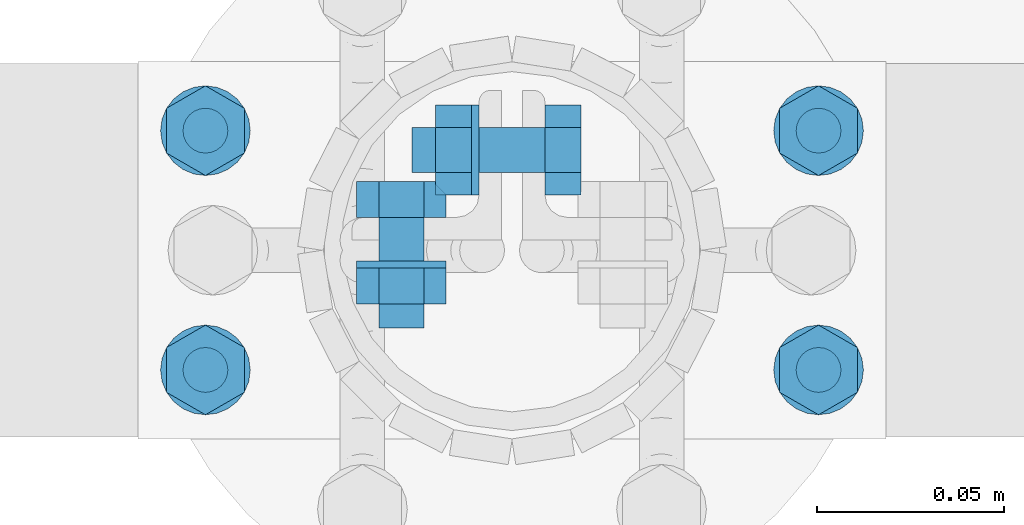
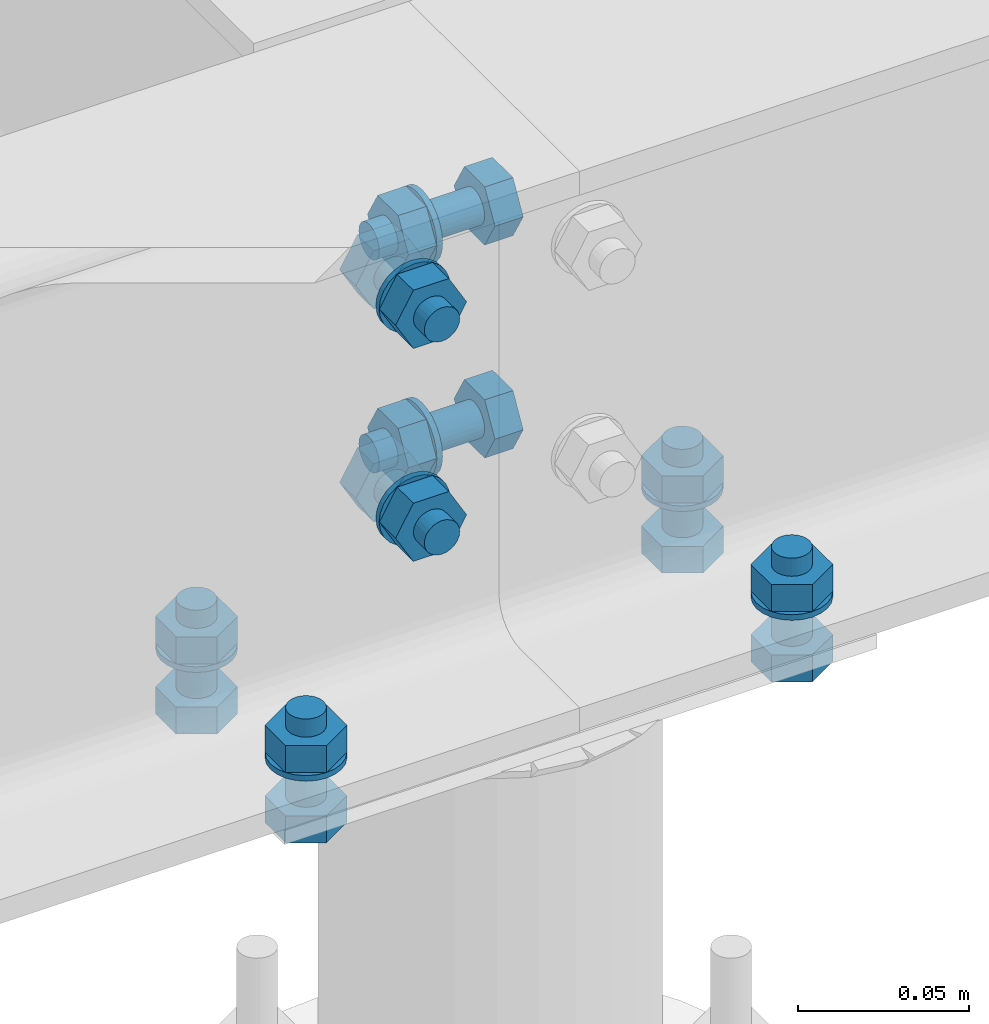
# One storey, part 42 of 84: 40 mechanical fasteners.
"""IFC4 building model written with IfcOpenShell, lengths in metres."""

from ifc_helpers import new_model, si_unit, frame, origin_with_axes, place, context, project, spatial, polyline, outline, extrude, type_object, element, save


model = new_model("IFC4")

# Units and contexts
model_context = context("Model", 3, precision=1e-05, world=origin_with_axes())
ifc_project = project(units=[si_unit("LENGTHUNIT", "METRE"), si_unit("AREAUNIT", "SQUARE_METRE"), si_unit("VOLUMEUNIT", "CUBIC_METRE"), si_unit("MASSUNIT", "GRAM", prefix="KILO"), si_unit("TIMEUNIT", "SECOND"), si_unit("PLANEANGLEUNIT", "RADIAN"), si_unit("SOLIDANGLEUNIT", "STERADIAN"), si_unit("THERMODYNAMICTEMPERATUREUNIT", "DEGREE_CELSIUS")], contexts=[model_context])

# Site, building, storey
placement_1 = place(None, origin_with_axes())
site = spatial("IfcSite", under=ifc_project, at=placement_1, Name="Italia", CompositionType="ELEMENT")
building = spatial("IfcBuilding", under=site, at=placement_1, Name="Tettoia", CompositionType="ELEMENT")
storey_placement = place(None, frame((0.0, 0.0, 4.199999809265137), z_axis=(0.0, 0.0, 1.0), x_axis=(1.0, 0.0, 0.0)))
storey = spatial("IfcBuildingStorey", under=building, at=storey_placement, Name="Storey 1", CompositionType="ELEMENT", Elevation=4.199999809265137)

# Mechanical fasteners
mechanical_fastener_type_1 = type_object("IfcMechanicalFastenerType", Name="Collegamento 0107_-007", PredefinedType="BOLT")
placement_2 = place(placement_1, origin_with_axes())
mechanical_fastener_1_placement = place(placement_2, origin_with_axes())
element("IfcMechanicalFastener", 1, at=mechanical_fastener_1_placement, inside=storey, type_object=mechanical_fastener_type_1, Name="Collegamento 0107_-007", NominalDiameter=0.0119998, context=model_context, shape_type="SweptSolid", body=[
    extrude(outline(polyline([(0.0, 0.0), (0.0120001, 0.0), (0.0179996, -0.0103923), (0.0120001, -0.0207846), (0.0, -0.0207846), (-0.00599957, -0.0103923), (0.0, 0.0)])), frame((0.192392, 9.996, 4.195), z_axis=(1.552177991e-06, 0.0, -1.0), x_axis=(0.0, 1.0, 0.0)), (0.0, 0.0, 1.0), 0.00960016),
])
mechanical_fastener_type_2 = type_object("IfcMechanicalFastenerType", Name="Collegamento 0107_-007", PredefinedType="BOLT")
mechanical_fastener_2_placement = place(placement_2, origin_with_axes())
element("IfcMechanicalFastener", 2, at=mechanical_fastener_2_placement, inside=storey, type_object=mechanical_fastener_type_2, Name="Collegamento 0107_-007", NominalDiameter=0.012, context=model_context, shape_type="SweptSolid", body=[
    extrude(outline(polyline([(0.0, 0.0), (-0.000204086, -0.00155291), (-0.000802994, -0.00300001), (-0.00175667, -0.00424264), (-0.00299931, -0.00519615), (-0.00444698, -0.00579555), (-0.00599957, -0.006), (-0.00755215, -0.00579555), (-0.00899982, -0.00519615), (-0.0102425, -0.00424264), (-0.0111961, -0.00300001), (-0.011795, -0.00155291), (-0.0119991, 0.0), (-0.011795, 0.00155291), (-0.0111961, 0.00300001), (-0.0102425, 0.00424264), (-0.00899982, 0.00519615), (-0.00755215, 0.00579555), (-0.00599957, 0.006), (-0.00444698, 0.00579555), (-0.00299931, 0.00519615), (-0.00175667, 0.00424264), (-0.000802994, 0.00299999), (-0.000204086, 0.00155291), (0.0, 0.0)])), frame((0.182, 10.008, 4.2265), z_axis=(2.838328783e-06, 0.0, -1.0), x_axis=(0.0, 1.0, 0.0)), (0.0, 0.0, 1.0), 0.0314999),
])
mechanical_fastener_type_3 = type_object("IfcMechanicalFastenerType", Name="Collegamento 0107_-007", PredefinedType="BOLT")
mechanical_fastener_3_placement = place(placement_2, origin_with_axes())
element("IfcMechanicalFastener", 3, at=mechanical_fastener_3_placement, inside=storey, type_object=mechanical_fastener_type_3, Name="Collegamento 0107_-007", NominalDiameter=0.0119998, context=model_context, shape_type="SweptSolid", body=[
    extrude(outline(polyline([(0.0, 0.0), (0.0120001, 0.0), (0.0179996, -0.0103923), (0.0120001, -0.0207846), (0.0, -0.0207846), (-0.00599957, -0.0103923), (0.0, 0.0)])), frame((0.192392, 9.996, 4.2201), z_axis=(1.552255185e-06, 0.0, -1.0), x_axis=(0.0, 1.0, 0.0)), (0.0, 0.0, 1.0), 0.00959969),
])
mechanical_fastener_type_4 = type_object("IfcMechanicalFastenerType", Name="Collegamento 0107_-007", PredefinedType="BOLT")
mechanical_fastener_4_placement = place(placement_2, origin_with_axes())
element("IfcMechanicalFastener", 4, at=mechanical_fastener_4_placement, inside=storey, type_object=mechanical_fastener_type_4, Name="Collegamento 0107_-007", NominalDiameter=0.024, context=model_context, shape_type="SweptSolid", body=[
    extrude(outline(polyline([(0.0, 0.0), (-0.000409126, -0.00310583), (-0.00160789, -0.006), (-0.00351524, -0.00848529), (-0.00600052, -0.0103923), (-0.00889397, -0.0115911), (-0.0120001, -0.012), (-0.0151062, -0.0115911), (-0.0179996, -0.0103923), (-0.0204849, -0.00848529), (-0.0223923, -0.006), (-0.023591, -0.00310583), (-0.0240002, 0.0), (-0.023591, 0.00310583), (-0.0223923, 0.006), (-0.0204849, 0.00848529), (-0.0179996, 0.0103923), (-0.0151062, 0.0115911), (-0.0120001, 0.012), (-0.00889397, 0.0115911), (-0.00600052, 0.0103923), (-0.00351524, 0.00848527), (-0.00160789, 0.006), (-0.000409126, 0.00310582), (0.0, 0.0)])), frame((0.182, 10.014, 4.2105), z_axis=(0.0, 0.0, -1.0), x_axis=(0.0, 1.0, 0.0)), (0.0, 0.0, 1.0), 0.00199986),
])
mechanical_fastener_type_5 = type_object("IfcMechanicalFastenerType", Name="Collegamento 0107_-007", PredefinedType="BOLT")
mechanical_fastener_5_placement = place(placement_2, origin_with_axes())
element("IfcMechanicalFastener", 5, at=mechanical_fastener_5_placement, inside=storey, type_object=mechanical_fastener_type_5, Name="Collegamento 0107_-007", NominalDiameter=0.0119998, context=model_context, shape_type="SweptSolid", body=[
    extrude(outline(polyline([(0.0, 0.0), (0.0120001, 0.0), (0.0179996, -0.0103923), (0.0120001, -0.0207846), (0.0, -0.0207846), (-0.00599957, -0.0103923), (0.0, 0.0)])), frame((0.192392, 9.932, 4.195), z_axis=(1.552177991e-06, 0.0, -1.0), x_axis=(0.0, 1.0, 0.0)), (0.0, 0.0, 1.0), 0.00960016),
])
mechanical_fastener_type_6 = type_object("IfcMechanicalFastenerType", Name="Collegamento 0107_-007", PredefinedType="BOLT")
mechanical_fastener_6_placement = place(placement_2, origin_with_axes())
element("IfcMechanicalFastener", 6, at=mechanical_fastener_6_placement, inside=storey, type_object=mechanical_fastener_type_6, Name="Collegamento 0107_-007", NominalDiameter=0.012, context=model_context, shape_type="SweptSolid", body=[
    extrude(outline(polyline([(0.0, 0.0), (-0.000204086, -0.00155291), (-0.000802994, -0.00300001), (-0.00175667, -0.00424264), (-0.00299931, -0.00519615), (-0.00444698, -0.00579555), (-0.00599957, -0.006), (-0.00755215, -0.00579555), (-0.00899982, -0.00519615), (-0.0102425, -0.00424264), (-0.0111961, -0.00300001), (-0.011795, -0.00155291), (-0.0119991, 0.0), (-0.011795, 0.00155291), (-0.0111961, 0.00300001), (-0.0102425, 0.00424264), (-0.00899982, 0.00519615), (-0.00755215, 0.00579555), (-0.00599957, 0.006), (-0.00444698, 0.00579555), (-0.00299931, 0.00519615), (-0.00175667, 0.00424264), (-0.000802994, 0.00299999), (-0.000204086, 0.00155291), (0.0, 0.0)])), frame((0.182, 9.944, 4.2265), z_axis=(2.838328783e-06, 0.0, -1.0), x_axis=(0.0, 1.0, 0.0)), (0.0, 0.0, 1.0), 0.0314999),
])
mechanical_fastener_type_7 = type_object("IfcMechanicalFastenerType", Name="Collegamento 0107_-007", PredefinedType="BOLT")
mechanical_fastener_7_placement = place(placement_2, origin_with_axes())
element("IfcMechanicalFastener", 7, at=mechanical_fastener_7_placement, inside=storey, type_object=mechanical_fastener_type_7, Name="Collegamento 0107_-007", NominalDiameter=0.0119998, context=model_context, shape_type="SweptSolid", body=[
    extrude(outline(polyline([(0.0, 0.0), (0.0120001, 0.0), (0.0179996, -0.0103923), (0.0120001, -0.0207846), (0.0, -0.0207846), (-0.00599957, -0.0103923), (0.0, 0.0)])), frame((0.192392, 9.932, 4.2201), z_axis=(1.552255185e-06, 0.0, -1.0), x_axis=(0.0, 1.0, 0.0)), (0.0, 0.0, 1.0), 0.00959969),
])
mechanical_fastener_type_8 = type_object("IfcMechanicalFastenerType", Name="Collegamento 0107_-007", PredefinedType="BOLT")
mechanical_fastener_8_placement = place(placement_2, origin_with_axes())
element("IfcMechanicalFastener", 8, at=mechanical_fastener_8_placement, inside=storey, type_object=mechanical_fastener_type_8, Name="Collegamento 0107_-007", NominalDiameter=0.024, context=model_context, shape_type="SweptSolid", body=[
    extrude(outline(polyline([(0.0, 0.0), (-0.000409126, -0.00310583), (-0.00160789, -0.006), (-0.00351524, -0.00848529), (-0.00600052, -0.0103923), (-0.00889397, -0.0115911), (-0.0120001, -0.012), (-0.0151062, -0.0115911), (-0.0179996, -0.0103923), (-0.0204849, -0.00848529), (-0.0223923, -0.006), (-0.023591, -0.00310583), (-0.0240002, 0.0), (-0.023591, 0.00310583), (-0.0223923, 0.006), (-0.0204849, 0.00848529), (-0.0179996, 0.0103923), (-0.0151062, 0.0115911), (-0.0120001, 0.012), (-0.00889397, 0.0115911), (-0.00600052, 0.0103923), (-0.00351524, 0.00848527), (-0.00160789, 0.006), (-0.000409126, 0.00310582), (0.0, 0.0)])), frame((0.182, 9.95, 4.2105), z_axis=(0.0, 0.0, -1.0), x_axis=(0.0, 1.0, 0.0)), (0.0, 0.0, 1.0), 0.00199986),
])
mechanical_fastener_type_9 = type_object("IfcMechanicalFastenerType", Name="Collegamento 0107_-007", PredefinedType="BOLT")
mechanical_fastener_9_placement = place(placement_2, origin_with_axes())
element("IfcMechanicalFastener", 9, at=mechanical_fastener_9_placement, inside=storey, type_object=mechanical_fastener_type_9, Name="Collegamento 0107_-007", NominalDiameter=0.0119998, context=model_context, shape_type="SweptSolid", body=[
    extrude(outline(polyline([(0.0, 0.0), (0.0120001, 0.0), (0.0179996, -0.0103923), (0.0120001, -0.0207846), (0.0, -0.0207846), (-0.00599957, -0.0103923), (0.0, 0.0)])), frame((0.0283923, 9.996, 4.195), z_axis=(2.328267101e-06, 0.0, -1.0), x_axis=(0.0, 1.0, 0.0)), (0.0, 0.0, 1.0), 0.00960016),
])
mechanical_fastener_type_10 = type_object("IfcMechanicalFastenerType", Name="Collegamento 0107_-007", PredefinedType="BOLT")
mechanical_fastener_10_placement = place(placement_2, origin_with_axes())
element("IfcMechanicalFastener", 10, at=mechanical_fastener_10_placement, inside=storey, type_object=mechanical_fastener_type_10, Name="Collegamento 0107_-007", NominalDiameter=0.012, context=model_context, shape_type="SweptSolid", body=[
    extrude(outline(polyline([(0.0, 0.0), (-0.000204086, -0.00155291), (-0.000802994, -0.003), (-0.00175667, -0.00424264), (-0.00299931, -0.00519615), (-0.00444698, -0.00579556), (-0.00599957, -0.006), (-0.00755215, -0.00579556), (-0.00899982, -0.00519615), (-0.0102425, -0.00424264), (-0.0111961, -0.003), (-0.011795, -0.00155291), (-0.0119991, 0.0), (-0.011795, 0.00155292), (-0.0111961, 0.003), (-0.0102425, 0.00424264), (-0.00899982, 0.00519615), (-0.00755215, 0.00579556), (-0.00599957, 0.006), (-0.00444698, 0.00579556), (-0.00299931, 0.00519615), (-0.00175667, 0.00424264), (-0.000802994, 0.003), (-0.000204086, 0.00155291), (0.0, 0.0)])), frame((0.0179999, 10.008, 4.2265), z_axis=(2.365273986e-06, 0.0, -1.0), x_axis=(0.0, 1.0, 0.0)), (0.0, 0.0, 1.0), 0.0314999),
])
mechanical_fastener_type_11 = type_object("IfcMechanicalFastenerType", Name="Collegamento 0107_-007", PredefinedType="BOLT")
mechanical_fastener_11_placement = place(placement_2, origin_with_axes())
element("IfcMechanicalFastener", 11, at=mechanical_fastener_11_placement, inside=storey, type_object=mechanical_fastener_type_11, Name="Collegamento 0107_-007", NominalDiameter=0.0119998, context=model_context, shape_type="SweptSolid", body=[
    extrude(outline(polyline([(0.0, 0.0), (0.0120001, 0.0), (0.0179996, -0.0103923), (0.0120001, -0.0207846), (0.0, -0.0207846), (-0.00599957, -0.0103923), (0.0, 0.0)])), frame((0.0283922, 9.996, 4.2201), z_axis=(2.328382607e-06, 0.0, -1.0), x_axis=(0.0, 1.0, 0.0)), (0.0, 0.0, 1.0), 0.00959969),
])
mechanical_fastener_type_12 = type_object("IfcMechanicalFastenerType", Name="Collegamento 0107_-007", PredefinedType="BOLT")
mechanical_fastener_12_placement = place(placement_2, origin_with_axes())
element("IfcMechanicalFastener", 12, at=mechanical_fastener_12_placement, inside=storey, type_object=mechanical_fastener_type_12, Name="Collegamento 0107_-007", NominalDiameter=0.024, context=model_context, shape_type="SweptSolid", body=[
    extrude(outline(polyline([(0.0, 0.0), (-0.000409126, -0.00310583), (-0.00160789, -0.006), (-0.00351524, -0.00848528), (-0.00600052, -0.0103923), (-0.00889397, -0.0115911), (-0.0120001, -0.012), (-0.0151062, -0.0115911), (-0.0179996, -0.0103923), (-0.0204849, -0.00848528), (-0.0223923, -0.006), (-0.023591, -0.00310583), (-0.0240002, 0.0), (-0.023591, 0.00310583), (-0.0223923, 0.006), (-0.0204849, 0.00848528), (-0.0179996, 0.0103923), (-0.0151062, 0.0115911), (-0.0120001, 0.012), (-0.00889397, 0.0115911), (-0.00600052, 0.0103923), (-0.00351524, 0.00848528), (-0.00160789, 0.006), (-0.000409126, 0.00310583), (0.0, 0.0)])), frame((0.018, 10.014, 4.2105), z_axis=(0.0, 0.0, -1.0), x_axis=(0.0, 1.0, 0.0)), (0.0, 0.0, 1.0), 0.00200033),
])
mechanical_fastener_type_13 = type_object("IfcMechanicalFastenerType", Name="Collegamento 0107_-007", PredefinedType="BOLT")
mechanical_fastener_13_placement = place(placement_2, origin_with_axes())
element("IfcMechanicalFastener", 13, at=mechanical_fastener_13_placement, inside=storey, type_object=mechanical_fastener_type_13, Name="Collegamento 0107_-007", NominalDiameter=0.0119998, context=model_context, shape_type="SweptSolid", body=[
    extrude(outline(polyline([(0.0, 0.0), (0.0120001, 0.0), (0.0179996, -0.0103923), (0.0120001, -0.0207846), (0.0, -0.0207846), (-0.00599957, -0.0103923), (0.0, 0.0)])), frame((0.0283923, 9.932, 4.195), z_axis=(2.328267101e-06, 0.0, -1.0), x_axis=(0.0, 1.0, 0.0)), (0.0, 0.0, 1.0), 0.00960016),
])
mechanical_fastener_type_14 = type_object("IfcMechanicalFastenerType", Name="Collegamento 0107_-007", PredefinedType="BOLT")
mechanical_fastener_14_placement = place(placement_2, origin_with_axes())
element("IfcMechanicalFastener", 14, at=mechanical_fastener_14_placement, inside=storey, type_object=mechanical_fastener_type_14, Name="Collegamento 0107_-007", NominalDiameter=0.012, context=model_context, shape_type="SweptSolid", body=[
    extrude(outline(polyline([(0.0, 0.0), (-0.000204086, -0.00155291), (-0.000802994, -0.003), (-0.00175667, -0.00424264), (-0.00299931, -0.00519615), (-0.00444698, -0.00579556), (-0.00599957, -0.006), (-0.00755215, -0.00579556), (-0.00899982, -0.00519615), (-0.0102425, -0.00424264), (-0.0111961, -0.003), (-0.011795, -0.00155291), (-0.0119991, 0.0), (-0.011795, 0.00155292), (-0.0111961, 0.003), (-0.0102425, 0.00424264), (-0.00899982, 0.00519615), (-0.00755215, 0.00579556), (-0.00599957, 0.006), (-0.00444698, 0.00579556), (-0.00299931, 0.00519615), (-0.00175667, 0.00424264), (-0.000802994, 0.003), (-0.000204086, 0.00155291), (0.0, 0.0)])), frame((0.0179999, 9.944, 4.2265), z_axis=(2.365273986e-06, 0.0, -1.0), x_axis=(0.0, 1.0, 0.0)), (0.0, 0.0, 1.0), 0.0314999),
])
mechanical_fastener_type_15 = type_object("IfcMechanicalFastenerType", Name="Collegamento 0107_-007", PredefinedType="BOLT")
mechanical_fastener_15_placement = place(placement_2, origin_with_axes())
element("IfcMechanicalFastener", 15, at=mechanical_fastener_15_placement, inside=storey, type_object=mechanical_fastener_type_15, Name="Collegamento 0107_-007", NominalDiameter=0.0119998, context=model_context, shape_type="SweptSolid", body=[
    extrude(outline(polyline([(0.0, 0.0), (0.0120001, 0.0), (0.0179996, -0.0103923), (0.0120001, -0.0207846), (0.0, -0.0207846), (-0.00599957, -0.0103923), (0.0, 0.0)])), frame((0.0283922, 9.932, 4.2201), z_axis=(2.328382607e-06, 0.0, -1.0), x_axis=(0.0, 1.0, 0.0)), (0.0, 0.0, 1.0), 0.00959969),
])
mechanical_fastener_type_16 = type_object("IfcMechanicalFastenerType", Name="Collegamento 0107_-007", PredefinedType="BOLT")
mechanical_fastener_16_placement = place(placement_2, origin_with_axes())
element("IfcMechanicalFastener", 16, at=mechanical_fastener_16_placement, inside=storey, type_object=mechanical_fastener_type_16, Name="Collegamento 0107_-007", NominalDiameter=0.024, context=model_context, shape_type="SweptSolid", body=[
    extrude(outline(polyline([(0.0, 0.0), (-0.000409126, -0.00310583), (-0.00160789, -0.006), (-0.00351524, -0.00848528), (-0.00600052, -0.0103923), (-0.00889397, -0.0115911), (-0.0120001, -0.012), (-0.0151062, -0.0115911), (-0.0179996, -0.0103923), (-0.0204849, -0.00848528), (-0.0223923, -0.006), (-0.023591, -0.00310583), (-0.0240002, 0.0), (-0.023591, 0.00310583), (-0.0223923, 0.006), (-0.0204849, 0.00848528), (-0.0179996, 0.0103923), (-0.0151062, 0.0115911), (-0.0120001, 0.012), (-0.00889397, 0.0115911), (-0.00600052, 0.0103923), (-0.00351524, 0.00848528), (-0.00160789, 0.006), (-0.000409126, 0.00310583), (0.0, 0.0)])), frame((0.018, 9.95, 4.2105), z_axis=(0.0, 0.0, -1.0), x_axis=(0.0, 1.0, 0.0)), (0.0, 0.0, 1.0), 0.00200033),
])
mechanical_fastener_type_17 = type_object("IfcMechanicalFastenerType", Name="Collegamento 0107_0111", PredefinedType="BOLT")
mechanical_fastener_17_placement = place(placement_2, origin_with_axes())
element("IfcMechanicalFastener", 17, at=mechanical_fastener_17_placement, inside=storey, type_object=mechanical_fastener_type_17, Name="Collegamento 0107_0111", NominalDiameter=0.0119997, context=model_context, shape_type="SweptSolid", body=[
    extrude(outline(polyline([(0.0, 0.0), (-0.0120001, 0.0), (-0.0179996, 0.0103922), (-0.0120001, 0.0207844), (0.0, 0.0207844), (0.00600052, 0.0103922), (0.0, 0.0)])), frame((0.1088, 10.0028, 4.25161), z_axis=(1.0, 0.0, 0.0), x_axis=(0.0, 1.0, 0.0)), (0.0, 0.0, 1.0), 0.0096),
])
mechanical_fastener_type_18 = type_object("IfcMechanicalFastenerType", Name="Collegamento 0107_0111", PredefinedType="BOLT")
mechanical_fastener_18_placement = place(placement_2, origin_with_axes())
element("IfcMechanicalFastener", 18, at=mechanical_fastener_18_placement, inside=storey, type_object=mechanical_fastener_type_18, Name="Collegamento 0107_0111", NominalDiameter=0.012, context=model_context, shape_type="SweptSolid", body=[
    extrude(outline(polyline([(0.0, 0.0), (-0.000204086, -0.00155306), (-0.000802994, -0.00299978), (-0.00175667, -0.00424242), (-0.00299931, -0.00519609), (-0.00444698, -0.00579548), (-0.00599957, -0.00600004), (-0.00755215, -0.00579548), (-0.00899982, -0.00519609), (-0.0102425, -0.00424242), (-0.0111961, -0.00299978), (-0.011795, -0.00155306), (-0.0119991, 0.0), (-0.011795, 0.00155306), (-0.0111961, 0.00299978), (-0.0102425, 0.00424242), (-0.00899982, 0.00519609), (-0.00755215, 0.00579548), (-0.00599957, 0.00600004), (-0.00444698, 0.00579548), (-0.00299931, 0.00519609), (-0.00175667, 0.00424242), (-0.000802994, 0.00299978), (-0.000204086, 0.00155306), (0.0, 0.0)])), frame((0.0732, 10.0028, 4.262), z_axis=(1.0, 0.0, 0.0), x_axis=(0.0, 1.0, 0.0)), (0.0, 0.0, 1.0), 0.0356),
])
mechanical_fastener_type_19 = type_object("IfcMechanicalFastenerType", Name="Collegamento 0107_0111", PredefinedType="BOLT")
mechanical_fastener_19_placement = place(placement_2, origin_with_axes())
element("IfcMechanicalFastener", 19, at=mechanical_fastener_19_placement, inside=storey, type_object=mechanical_fastener_type_19, Name="Collegamento 0107_0111", NominalDiameter=0.0119997, context=model_context, shape_type="SweptSolid", body=[
    extrude(outline(polyline([(0.0, 0.0), (-0.0120001, 0.0), (-0.0179996, 0.0103922), (-0.0120001, 0.0207844), (0.0, 0.0207844), (0.00600052, 0.0103922), (0.0, 0.0)])), frame((0.0796, 10.0028, 4.25161), z_axis=(1.0, 0.0, 0.0), x_axis=(0.0, 1.0, 0.0)), (0.0, 0.0, 1.0), 0.00960001),
])
mechanical_fastener_type_20 = type_object("IfcMechanicalFastenerType", Name="Collegamento 0107_0111", PredefinedType="BOLT")
mechanical_fastener_20_placement = place(placement_2, origin_with_axes())
element("IfcMechanicalFastener", 20, at=mechanical_fastener_20_placement, inside=storey, type_object=mechanical_fastener_type_20, Name="Collegamento 0107_0111", NominalDiameter=0.024, context=model_context, shape_type="SweptSolid", body=[
    extrude(outline(polyline([(0.0, 0.0), (-0.000409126, -0.00310564), (-0.00160789, -0.00600004), (-0.00351524, -0.00848532), (-0.00600052, -0.0103922), (-0.00889397, -0.011591), (-0.0120001, -0.0120001), (-0.0151062, -0.011591), (-0.0179996, -0.0103922), (-0.0204849, -0.00848532), (-0.0223923, -0.00600004), (-0.023591, -0.00310564), (-0.0240002, 0.0), (-0.023591, 0.00310564), (-0.0223923, 0.00600004), (-0.0204849, 0.00848532), (-0.0179996, 0.0103922), (-0.0151062, 0.011591), (-0.0120001, 0.0120001), (-0.00889397, 0.011591), (-0.00600052, 0.0103922), (-0.00351524, 0.00848532), (-0.00160789, 0.00600004), (-0.000409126, 0.00310564), (0.0, 0.0)])), frame((0.0892, 10.0088, 4.262), z_axis=(1.0, 0.0, 0.0), x_axis=(0.0, 1.0, 0.0)), (0.0, 0.0, 1.0), 0.002),
])
mechanical_fastener_type_21 = type_object("IfcMechanicalFastenerType", Name="Collegamento 0107_0111", PredefinedType="BOLT")
mechanical_fastener_21_placement = place(placement_2, origin_with_axes())
element("IfcMechanicalFastener", 21, at=mechanical_fastener_21_placement, inside=storey, type_object=mechanical_fastener_type_21, Name="Collegamento 0107_0111", NominalDiameter=0.0119997, context=model_context, shape_type="SweptSolid", body=[
    extrude(outline(polyline([(0.0, 0.0), (-0.0120001, 0.0), (-0.0179996, 0.0103922), (-0.0120001, 0.0207844), (0.0, 0.0207844), (0.00600052, 0.0103922), (0.0, 0.0)])), frame((0.1088, 10.0028, 4.32761), z_axis=(1.0, 0.0, 0.0), x_axis=(0.0, 1.0, 0.0)), (0.0, 0.0, 1.0), 0.0096),
])
mechanical_fastener_type_22 = type_object("IfcMechanicalFastenerType", Name="Collegamento 0107_0111", PredefinedType="BOLT")
mechanical_fastener_22_placement = place(placement_2, origin_with_axes())
element("IfcMechanicalFastener", 22, at=mechanical_fastener_22_placement, inside=storey, type_object=mechanical_fastener_type_22, Name="Collegamento 0107_0111", NominalDiameter=0.012, context=model_context, shape_type="SweptSolid", body=[
    extrude(outline(polyline([(0.0, 0.0), (-0.000204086, -0.00155306), (-0.000802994, -0.00299978), (-0.00175667, -0.00424242), (-0.00299931, -0.00519609), (-0.00444698, -0.00579548), (-0.00599957, -0.00600004), (-0.00755215, -0.00579548), (-0.00899982, -0.00519609), (-0.0102425, -0.00424242), (-0.0111961, -0.00299978), (-0.011795, -0.00155306), (-0.0119991, 0.0), (-0.011795, 0.00155306), (-0.0111961, 0.00299978), (-0.0102425, 0.00424242), (-0.00899982, 0.00519609), (-0.00755215, 0.00579548), (-0.00599957, 0.00600004), (-0.00444698, 0.00579548), (-0.00299931, 0.00519609), (-0.00175667, 0.00424242), (-0.000802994, 0.00299978), (-0.000204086, 0.00155306), (0.0, 0.0)])), frame((0.0732, 10.0028, 4.338), z_axis=(1.0, 0.0, 0.0), x_axis=(0.0, 1.0, 0.0)), (0.0, 0.0, 1.0), 0.0356),
])
mechanical_fastener_type_23 = type_object("IfcMechanicalFastenerType", Name="Collegamento 0107_0111", PredefinedType="BOLT")
mechanical_fastener_23_placement = place(placement_2, origin_with_axes())
element("IfcMechanicalFastener", 23, at=mechanical_fastener_23_placement, inside=storey, type_object=mechanical_fastener_type_23, Name="Collegamento 0107_0111", NominalDiameter=0.0119997, context=model_context, shape_type="SweptSolid", body=[
    extrude(outline(polyline([(0.0, 0.0), (-0.0120001, 0.0), (-0.0179996, 0.0103922), (-0.0120001, 0.0207844), (0.0, 0.0207844), (0.00600052, 0.0103922), (0.0, 0.0)])), frame((0.0796, 10.0028, 4.32761), z_axis=(1.0, 0.0, 0.0), x_axis=(0.0, 1.0, 0.0)), (0.0, 0.0, 1.0), 0.00960001),
])
mechanical_fastener_type_24 = type_object("IfcMechanicalFastenerType", Name="Collegamento 0107_0111", PredefinedType="BOLT")
mechanical_fastener_24_placement = place(placement_2, origin_with_axes())
element("IfcMechanicalFastener", 24, at=mechanical_fastener_24_placement, inside=storey, type_object=mechanical_fastener_type_24, Name="Collegamento 0107_0111", NominalDiameter=0.024, context=model_context, shape_type="SweptSolid", body=[
    extrude(outline(polyline([(0.0, 0.0), (-0.000409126, -0.00310564), (-0.00160789, -0.00600004), (-0.00351524, -0.00848532), (-0.00600052, -0.0103922), (-0.00889397, -0.011591), (-0.0120001, -0.0120001), (-0.0151062, -0.011591), (-0.0179996, -0.0103922), (-0.0204849, -0.00848532), (-0.0223923, -0.00600004), (-0.023591, -0.00310564), (-0.0240002, 0.0), (-0.023591, 0.00310564), (-0.0223923, 0.00600004), (-0.0204849, 0.00848532), (-0.0179996, 0.0103922), (-0.0151062, 0.011591), (-0.0120001, 0.0120001), (-0.00889397, 0.011591), (-0.00600052, 0.0103922), (-0.00351524, 0.00848532), (-0.00160789, 0.00600004), (-0.000409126, 0.00310564), (0.0, 0.0)])), frame((0.0892, 10.0088, 4.338), z_axis=(1.0, 0.0, 0.0), x_axis=(0.0, 1.0, 0.0)), (0.0, 0.0, 1.0), 0.002),
])
mechanical_fastener_type_25 = type_object("IfcMechanicalFastenerType", Name="Collegamento 0107_0111", PredefinedType="BOLT")
mechanical_fastener_25_placement = place(placement_2, origin_with_axes())
element("IfcMechanicalFastener", 25, at=mechanical_fastener_25_placement, inside=storey, type_object=mechanical_fastener_type_25, Name="Collegamento 0107_0111", NominalDiameter=0.0119997, context=model_context, shape_type="SweptSolid", body=[
    extrude(outline(polyline([(0.0, 0.0), (-0.0120001, 0.0), (-0.0179996, 0.0103922), (-0.0120001, 0.0207844), (0.0, 0.0207844), (0.00600052, 0.0103922), (0.0, 0.0)])), frame((0.1088, 10.0028, 4.25161), z_axis=(1.0, 0.0, 0.0), x_axis=(0.0, 1.0, 0.0)), (0.0, 0.0, 1.0), 0.0096),
])
mechanical_fastener_type_26 = type_object("IfcMechanicalFastenerType", Name="Collegamento 0107_0111", PredefinedType="BOLT")
mechanical_fastener_26_placement = place(placement_2, origin_with_axes())
element("IfcMechanicalFastener", 26, at=mechanical_fastener_26_placement, inside=storey, type_object=mechanical_fastener_type_26, Name="Collegamento 0107_0111", NominalDiameter=0.012, context=model_context, shape_type="SweptSolid", body=[
    extrude(outline(polyline([(0.0, 0.0), (-0.000204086, -0.00155306), (-0.000802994, -0.00299978), (-0.00175667, -0.00424242), (-0.00299931, -0.00519609), (-0.00444698, -0.00579548), (-0.00599957, -0.00600004), (-0.00755215, -0.00579548), (-0.00899982, -0.00519609), (-0.0102425, -0.00424242), (-0.0111961, -0.00299978), (-0.011795, -0.00155306), (-0.0119991, 0.0), (-0.011795, 0.00155306), (-0.0111961, 0.00299978), (-0.0102425, 0.00424242), (-0.00899982, 0.00519609), (-0.00755215, 0.00579548), (-0.00599957, 0.00600004), (-0.00444698, 0.00579548), (-0.00299931, 0.00519609), (-0.00175667, 0.00424242), (-0.000802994, 0.00299978), (-0.000204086, 0.00155306), (0.0, 0.0)])), frame((0.0732, 10.0028, 4.262), z_axis=(1.0, 0.0, 0.0), x_axis=(0.0, 1.0, 0.0)), (0.0, 0.0, 1.0), 0.0356),
])
mechanical_fastener_type_27 = type_object("IfcMechanicalFastenerType", Name="Collegamento 0107_0111", PredefinedType="BOLT")
mechanical_fastener_27_placement = place(placement_2, origin_with_axes())
element("IfcMechanicalFastener", 27, at=mechanical_fastener_27_placement, inside=storey, type_object=mechanical_fastener_type_27, Name="Collegamento 0107_0111", NominalDiameter=0.0119997, context=model_context, shape_type="SweptSolid", body=[
    extrude(outline(polyline([(0.0, 0.0), (-0.0120001, 0.0), (-0.0179996, 0.0103922), (-0.0120001, 0.0207844), (0.0, 0.0207844), (0.00600052, 0.0103922), (0.0, 0.0)])), frame((0.0796, 10.0028, 4.25161), z_axis=(1.0, 0.0, 0.0), x_axis=(0.0, 1.0, 0.0)), (0.0, 0.0, 1.0), 0.00960001),
])
mechanical_fastener_type_28 = type_object("IfcMechanicalFastenerType", Name="Collegamento 0107_0111", PredefinedType="BOLT")
mechanical_fastener_28_placement = place(placement_2, origin_with_axes())
element("IfcMechanicalFastener", 28, at=mechanical_fastener_28_placement, inside=storey, type_object=mechanical_fastener_type_28, Name="Collegamento 0107_0111", NominalDiameter=0.024, context=model_context, shape_type="SweptSolid", body=[
    extrude(outline(polyline([(0.0, 0.0), (-0.000409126, -0.00310564), (-0.00160789, -0.00600004), (-0.00351524, -0.00848532), (-0.00600052, -0.0103922), (-0.00889397, -0.011591), (-0.0120001, -0.0120001), (-0.0151062, -0.011591), (-0.0179996, -0.0103922), (-0.0204849, -0.00848532), (-0.0223923, -0.00600004), (-0.023591, -0.00310564), (-0.0240002, 0.0), (-0.023591, 0.00310564), (-0.0223923, 0.00600004), (-0.0204849, 0.00848532), (-0.0179996, 0.0103922), (-0.0151062, 0.011591), (-0.0120001, 0.0120001), (-0.00889397, 0.011591), (-0.00600052, 0.0103922), (-0.00351524, 0.00848532), (-0.00160789, 0.00600004), (-0.000409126, 0.00310564), (0.0, 0.0)])), frame((0.0892, 10.0088, 4.262), z_axis=(1.0, 0.0, 0.0), x_axis=(0.0, 1.0, 0.0)), (0.0, 0.0, 1.0), 0.002),
])
mechanical_fastener_type_29 = type_object("IfcMechanicalFastenerType", Name="Collegamento 0107_0111", PredefinedType="BOLT")
mechanical_fastener_29_placement = place(placement_2, origin_with_axes())
element("IfcMechanicalFastener", 29, at=mechanical_fastener_29_placement, inside=storey, type_object=mechanical_fastener_type_29, Name="Collegamento 0107_0111", NominalDiameter=0.0119997, context=model_context, shape_type="SweptSolid", body=[
    extrude(outline(polyline([(0.0, 0.0), (-0.0120001, 0.0), (-0.0179996, 0.0103922), (-0.0120001, 0.0207844), (0.0, 0.0207844), (0.00600052, 0.0103922), (0.0, 0.0)])), frame((0.1088, 10.0028, 4.32761), z_axis=(1.0, 0.0, 0.0), x_axis=(0.0, 1.0, 0.0)), (0.0, 0.0, 1.0), 0.0096),
])
mechanical_fastener_type_30 = type_object("IfcMechanicalFastenerType", Name="Collegamento 0107_0111", PredefinedType="BOLT")
mechanical_fastener_30_placement = place(placement_2, origin_with_axes())
element("IfcMechanicalFastener", 30, at=mechanical_fastener_30_placement, inside=storey, type_object=mechanical_fastener_type_30, Name="Collegamento 0107_0111", NominalDiameter=0.012, context=model_context, shape_type="SweptSolid", body=[
    extrude(outline(polyline([(0.0, 0.0), (-0.000204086, -0.00155306), (-0.000802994, -0.00299978), (-0.00175667, -0.00424242), (-0.00299931, -0.00519609), (-0.00444698, -0.00579548), (-0.00599957, -0.00600004), (-0.00755215, -0.00579548), (-0.00899982, -0.00519609), (-0.0102425, -0.00424242), (-0.0111961, -0.00299978), (-0.011795, -0.00155306), (-0.0119991, 0.0), (-0.011795, 0.00155306), (-0.0111961, 0.00299978), (-0.0102425, 0.00424242), (-0.00899982, 0.00519609), (-0.00755215, 0.00579548), (-0.00599957, 0.00600004), (-0.00444698, 0.00579548), (-0.00299931, 0.00519609), (-0.00175667, 0.00424242), (-0.000802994, 0.00299978), (-0.000204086, 0.00155306), (0.0, 0.0)])), frame((0.0732, 10.0028, 4.338), z_axis=(1.0, 0.0, 0.0), x_axis=(0.0, 1.0, 0.0)), (0.0, 0.0, 1.0), 0.0356),
])
mechanical_fastener_type_31 = type_object("IfcMechanicalFastenerType", Name="Collegamento 0107_0111", PredefinedType="BOLT")
mechanical_fastener_31_placement = place(placement_2, origin_with_axes())
element("IfcMechanicalFastener", 31, at=mechanical_fastener_31_placement, inside=storey, type_object=mechanical_fastener_type_31, Name="Collegamento 0107_0111", NominalDiameter=0.0119997, context=model_context, shape_type="SweptSolid", body=[
    extrude(outline(polyline([(0.0, 0.0), (-0.0120001, 0.0), (-0.0179996, 0.0103922), (-0.0120001, 0.0207844), (0.0, 0.0207844), (0.00600052, 0.0103922), (0.0, 0.0)])), frame((0.0796, 10.0028, 4.32761), z_axis=(1.0, 0.0, 0.0), x_axis=(0.0, 1.0, 0.0)), (0.0, 0.0, 1.0), 0.00960001),
])
mechanical_fastener_type_32 = type_object("IfcMechanicalFastenerType", Name="Collegamento 0107_0111", PredefinedType="BOLT")
mechanical_fastener_32_placement = place(placement_2, origin_with_axes())
element("IfcMechanicalFastener", 32, at=mechanical_fastener_32_placement, inside=storey, type_object=mechanical_fastener_type_32, Name="Collegamento 0107_0111", NominalDiameter=0.024, context=model_context, shape_type="SweptSolid", body=[
    extrude(outline(polyline([(0.0, 0.0), (-0.000409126, -0.00310564), (-0.00160789, -0.00600004), (-0.00351524, -0.00848532), (-0.00600052, -0.0103922), (-0.00889397, -0.011591), (-0.0120001, -0.0120001), (-0.0151062, -0.011591), (-0.0179996, -0.0103922), (-0.0204849, -0.00848532), (-0.0223923, -0.00600004), (-0.023591, -0.00310564), (-0.0240002, 0.0), (-0.023591, 0.00310564), (-0.0223923, 0.00600004), (-0.0204849, 0.00848532), (-0.0179996, 0.0103922), (-0.0151062, 0.011591), (-0.0120001, 0.0120001), (-0.00889397, 0.011591), (-0.00600052, 0.0103922), (-0.00351524, 0.00848532), (-0.00160789, 0.00600004), (-0.000409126, 0.00310564), (0.0, 0.0)])), frame((0.0892, 10.0088, 4.338), z_axis=(1.0, 0.0, 0.0), x_axis=(0.0, 1.0, 0.0)), (0.0, 0.0, 1.0), 0.002),
])
mechanical_fastener_type_33 = type_object("IfcMechanicalFastenerType", Name="Collegamento 0107_0111", PredefinedType="BOLT")
mechanical_fastener_33_placement = place(placement_2, origin_with_axes())
element("IfcMechanicalFastener", 33, at=mechanical_fastener_33_placement, inside=storey, type_object=mechanical_fastener_type_33, Name="Collegamento 0107_0111", NominalDiameter=0.0119999, context=model_context, shape_type="SweptSolid", body=[
    extrude(outline(polyline([(0.0, 0.0), (-0.012, 0.0), (-0.018, 0.0103922), (-0.012, 0.0207844), (0.0, 0.0207844), (0.006, 0.0103922), (0.0, 0.0)])), frame((0.0644, 9.9788, 4.25161), z_axis=(0.0, 1.0, 0.0), x_axis=(-1.0, 0.0, 0.0)), (0.0, 0.0, 1.0), 0.00960064),
])
mechanical_fastener_type_34 = type_object("IfcMechanicalFastenerType", Name="Collegamento 0107_0111", PredefinedType="BOLT")
mechanical_fastener_34_placement = place(placement_2, origin_with_axes())
element("IfcMechanicalFastener", 34, at=mechanical_fastener_34_placement, inside=storey, type_object=mechanical_fastener_type_34, Name="Collegamento 0107_0111", NominalDiameter=0.012, context=model_context, shape_type="SweptSolid", body=[
    extrude(outline(polyline([(0.0, 0.0), (-0.000204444, -0.00155306), (-0.000803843, -0.00299978), (-0.00175735, -0.00424242), (-0.003, -0.00519609), (-0.00444708, -0.00579548), (-0.006, -0.00600004), (-0.00755291, -0.00579548), (-0.009, -0.00519609), (-0.0102426, -0.00424242), (-0.0111962, -0.00299978), (-0.0117956, -0.00155306), (-0.012, 0.0), (-0.0117956, 0.00155306), (-0.0111962, 0.00299978), (-0.0102426, 0.00424242), (-0.009, 0.00519609), (-0.00755291, 0.00579548), (-0.006, 0.00600004), (-0.00444708, 0.00579548), (-0.003, 0.00519609), (-0.00175735, 0.00424242), (-0.000803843, 0.00299978), (-0.000204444, 0.00155306), (0.0, 0.0)])), frame((0.0644, 9.9492, 4.262), z_axis=(0.0, 1.0, 0.0), x_axis=(-1.0, 0.0, 0.0)), (0.0, 0.0, 1.0), 0.0295992),
])
mechanical_fastener_type_35 = type_object("IfcMechanicalFastenerType", Name="Collegamento 0107_0111", PredefinedType="BOLT")
mechanical_fastener_35_placement = place(placement_2, origin_with_axes())
element("IfcMechanicalFastener", 35, at=mechanical_fastener_35_placement, inside=storey, type_object=mechanical_fastener_type_35, Name="Collegamento 0107_0111", NominalDiameter=0.0119999, context=model_context, shape_type="SweptSolid", body=[
    extrude(outline(polyline([(0.0, 0.0), (-0.012, 0.0), (-0.018, 0.0103922), (-0.012, 0.0207844), (0.0, 0.0207844), (0.006, 0.0103922), (0.0, 0.0)])), frame((0.0644, 9.9556, 4.25161), z_axis=(0.0, 1.0, 0.0), x_axis=(-1.0, 0.0, 0.0)), (0.0, 0.0, 1.0), 0.00960064),
])
mechanical_fastener_type_36 = type_object("IfcMechanicalFastenerType", Name="Collegamento 0107_0111", PredefinedType="BOLT")
mechanical_fastener_36_placement = place(placement_2, origin_with_axes())
element("IfcMechanicalFastener", 36, at=mechanical_fastener_36_placement, inside=storey, type_object=mechanical_fastener_type_36, Name="Collegamento 0107_0111", NominalDiameter=0.024, context=model_context, shape_type="SweptSolid", body=[
    extrude(outline(polyline([(0.0, 0.0), (-0.000408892, -0.00310564), (-0.0016077, -0.00600004), (-0.00351472, -0.00848532), (-0.006, -0.0103922), (-0.00889418, -0.011591), (-0.012, -0.0120001), (-0.0151058, -0.011591), (-0.018, -0.0103922), (-0.0204853, -0.00848532), (-0.0223923, -0.00600004), (-0.0235911, -0.00310564), (-0.024, 0.0), (-0.0235911, 0.00310564), (-0.0223923, 0.00600004), (-0.0204853, 0.00848532), (-0.018, 0.0103922), (-0.0151058, 0.011591), (-0.012, 0.0120001), (-0.00889418, 0.011591), (-0.006, 0.0103922), (-0.00351472, 0.00848532), (-0.00160769, 0.00600004), (-0.000408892, 0.00310564), (0.0, 0.0)])), frame((0.0584, 9.9652, 4.262), z_axis=(0.0, 1.0, 0.0), x_axis=(-1.0, 0.0, 0.0)), (0.0, 0.0, 1.0), 0.00199986),
])
mechanical_fastener_type_37 = type_object("IfcMechanicalFastenerType", Name="Collegamento 0107_0111", PredefinedType="BOLT")
mechanical_fastener_37_placement = place(placement_2, origin_with_axes())
element("IfcMechanicalFastener", 37, at=mechanical_fastener_37_placement, inside=storey, type_object=mechanical_fastener_type_37, Name="Collegamento 0107_0111", NominalDiameter=0.0119999, context=model_context, shape_type="SweptSolid", body=[
    extrude(outline(polyline([(0.0, 0.0), (-0.012, 0.0), (-0.018, 0.0103922), (-0.012, 0.0207844), (0.0, 0.0207844), (0.006, 0.0103922), (0.0, 0.0)])), frame((0.0644, 9.9788, 4.32761), z_axis=(0.0, 1.0, 0.0), x_axis=(-1.0, 0.0, 0.0)), (0.0, 0.0, 1.0), 0.00960064),
])
mechanical_fastener_type_38 = type_object("IfcMechanicalFastenerType", Name="Collegamento 0107_0111", PredefinedType="BOLT")
mechanical_fastener_38_placement = place(placement_2, origin_with_axes())
element("IfcMechanicalFastener", 38, at=mechanical_fastener_38_placement, inside=storey, type_object=mechanical_fastener_type_38, Name="Collegamento 0107_0111", NominalDiameter=0.012, context=model_context, shape_type="SweptSolid", body=[
    extrude(outline(polyline([(0.0, 0.0), (-0.000204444, -0.00155306), (-0.000803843, -0.00299978), (-0.00175735, -0.00424242), (-0.003, -0.00519609), (-0.00444708, -0.00579548), (-0.006, -0.00600004), (-0.00755291, -0.00579548), (-0.009, -0.00519609), (-0.0102426, -0.00424242), (-0.0111962, -0.00299978), (-0.0117956, -0.00155306), (-0.012, 0.0), (-0.0117956, 0.00155306), (-0.0111962, 0.00299978), (-0.0102426, 0.00424242), (-0.009, 0.00519609), (-0.00755291, 0.00579548), (-0.006, 0.00600004), (-0.00444708, 0.00579548), (-0.003, 0.00519609), (-0.00175735, 0.00424242), (-0.000803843, 0.00299978), (-0.000204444, 0.00155306), (0.0, 0.0)])), frame((0.0644, 9.9492, 4.338), z_axis=(0.0, 1.0, 0.0), x_axis=(-1.0, 0.0, 0.0)), (0.0, 0.0, 1.0), 0.0295992),
])
mechanical_fastener_type_39 = type_object("IfcMechanicalFastenerType", Name="Collegamento 0107_0111", PredefinedType="BOLT")
mechanical_fastener_39_placement = place(placement_2, origin_with_axes())
element("IfcMechanicalFastener", 39, at=mechanical_fastener_39_placement, inside=storey, type_object=mechanical_fastener_type_39, Name="Collegamento 0107_0111", NominalDiameter=0.0119999, context=model_context, shape_type="SweptSolid", body=[
    extrude(outline(polyline([(0.0, 0.0), (-0.012, 0.0), (-0.018, 0.0103922), (-0.012, 0.0207844), (0.0, 0.0207844), (0.006, 0.0103922), (0.0, 0.0)])), frame((0.0644, 9.9556, 4.32761), z_axis=(0.0, 1.0, 0.0), x_axis=(-1.0, 0.0, 0.0)), (0.0, 0.0, 1.0), 0.00960064),
])
mechanical_fastener_type_40 = type_object("IfcMechanicalFastenerType", Name="Collegamento 0107_0111", PredefinedType="BOLT")
mechanical_fastener_40_placement = place(placement_2, origin_with_axes())
element("IfcMechanicalFastener", 40, at=mechanical_fastener_40_placement, inside=storey, type_object=mechanical_fastener_type_40, Name="Collegamento 0107_0111", NominalDiameter=0.024, context=model_context, shape_type="SweptSolid", body=[
    extrude(outline(polyline([(0.0, 0.0), (-0.000408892, -0.00310564), (-0.0016077, -0.00600004), (-0.00351472, -0.00848532), (-0.006, -0.0103922), (-0.00889418, -0.011591), (-0.012, -0.0120001), (-0.0151058, -0.011591), (-0.018, -0.0103922), (-0.0204853, -0.00848532), (-0.0223923, -0.00600004), (-0.0235911, -0.00310564), (-0.024, 0.0), (-0.0235911, 0.00310564), (-0.0223923, 0.00600004), (-0.0204853, 0.00848532), (-0.018, 0.0103922), (-0.0151058, 0.011591), (-0.012, 0.0120001), (-0.00889418, 0.011591), (-0.006, 0.0103922), (-0.00351472, 0.00848532), (-0.00160769, 0.00600004), (-0.000408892, 0.00310564), (0.0, 0.0)])), frame((0.0584, 9.9652, 4.338), z_axis=(0.0, 1.0, 0.0), x_axis=(-1.0, 0.0, 0.0)), (0.0, 0.0, 1.0), 0.00199986),
])

save(model, "model.ifc")
